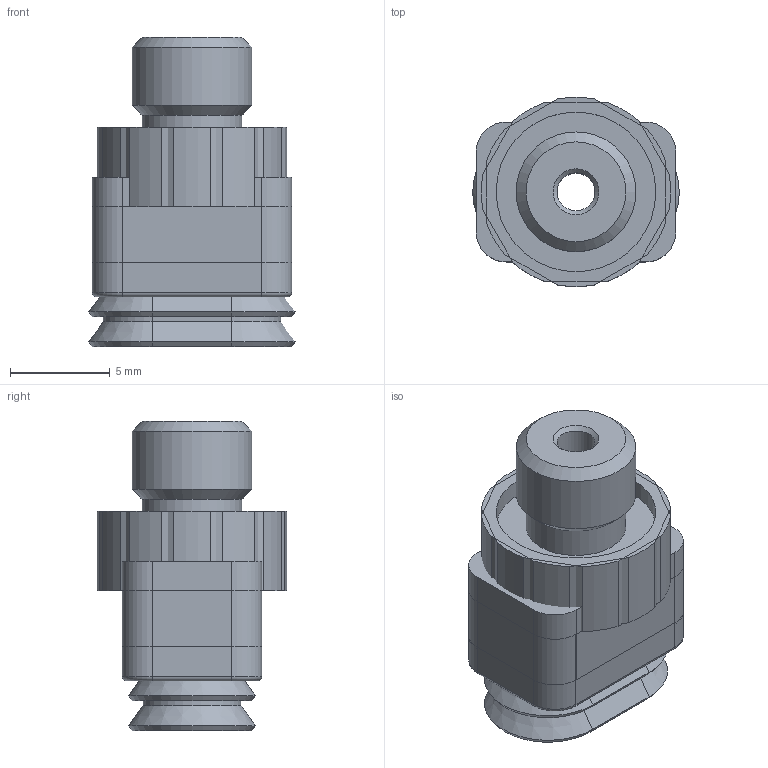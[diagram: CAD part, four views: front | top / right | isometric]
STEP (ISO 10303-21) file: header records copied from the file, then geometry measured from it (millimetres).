
FILE_DESCRIPTION( ( 'Unknown' ), '1' );
FILE_NAME( 'C:/Documents and Settings/owner/官帕 拳搁/MISUMI/PAD/VOU/VOU 6X10-N-M6M.stp', 'Unknown', ( 'Unknown' ), ( 'Unknown' ), 'XStep 1.0', 'Unknown', ' ' );
FILE_SCHEMA( ( 'automotive_design' ) );
Length unit declared in the file: millimetre
Products named in the file (3): Assem1; 6X10_STP; VOU M6M
Bounding box: 10.35 x 9.48 x 15.5 mm (x, y, z)
Volume: 1457.7 mm3; surface area: 1839.5 mm2
Topology: 4 solids, 4 shells, 118 faces, 266 edges, 164 vertices
Faces by surface type: plane 52, cylinder 44, cone 14, torus 8
Full cylindrical faces by diameter (mm): 1.9 x2, 3 x2, 3.1 x2, 5 x2, 6 x2, 8 x2
Entity records: 1864 total; most frequent: DIRECTION 302, CARTESIAN_POINT 266, ORIENTED_EDGE 246, EDGE_CURVE 123, AXIS2_PLACEMENT_3D 117, VERTEX_POINT 81, EDGE_LOOP 76, LINE 68
